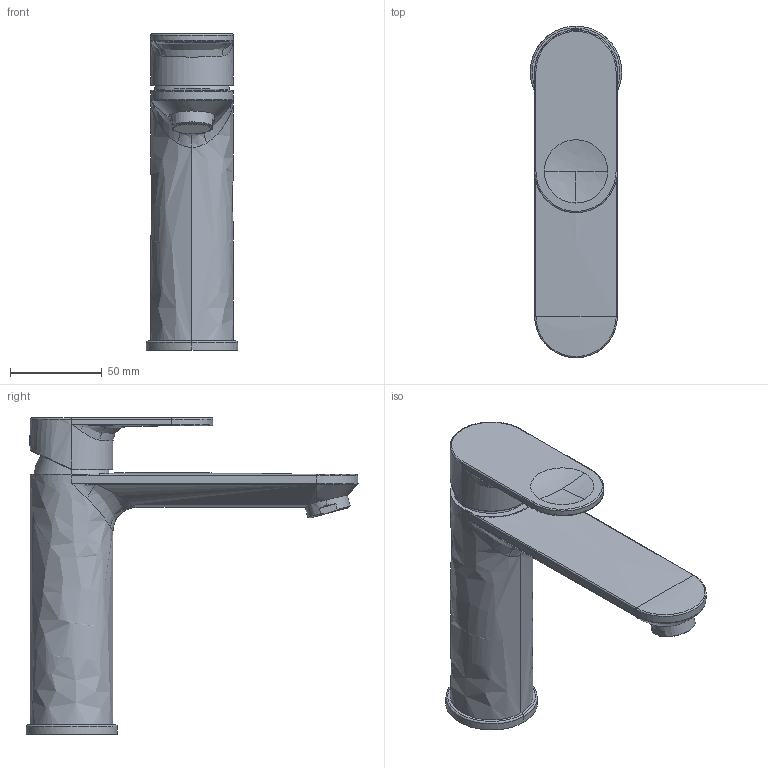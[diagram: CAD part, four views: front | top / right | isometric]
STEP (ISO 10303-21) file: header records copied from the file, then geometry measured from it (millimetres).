
FILE_DESCRIPTION(/* description */ (''),/* implementation_level */ '2;1');
FILE_NAME(/* name */ 'B31020002010',/* time_stamp */ '2019-02-25T14:06:23+01:00',/* author */ (''),/* organization */ (''),/* preprocessor_version */ 'ST-DEVELOPER v15',/* originating_system */ '',/* authorisation */ '');
FILE_SCHEMA (('AUTOMOTIVE_DESIGN'));
Length unit declared in the file: millimetre
Products named in the file (1): Document
Bounding box: 49.78 x 180.89 x 172.35 mm (x, y, z)
Volume: 3738.6 mm3; surface area: 53274.6 mm2
Topology: 1 solids, 6 shells, 116 faces, 278 edges, 172 vertices
Faces by surface type: bspline 116
Entity records: 11334 total; most frequent: CARTESIAN_POINT 7943, B_SPLINE_CURVE_WITH_KNOTS 619, ORIENTED_EDGE 536, PCURVE 536, DEFINITIONAL_REPRESENTATION 536, SURFACE_CURVE 275, EDGE_CURVE 275, VERTEX_POINT 172
